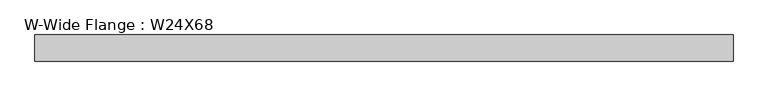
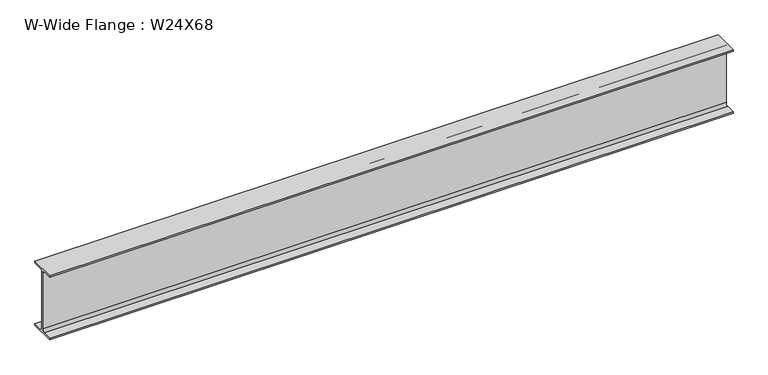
"""IFC4 building model written with IfcOpenShell, lengths in millimetres: beam geometry, W-Wide Flange : W24X68."""

from ifc_helpers import new_model, si_unit, point, frame, frame_2d, origin, place, context, project, spatial, polyline, circle_curve, trimmed, segment, composite_curve, outline, extrude, source, transform, mapped, element, save


def w_wide_flange_w24x68_46376fb1(model_context):
    return source(origin(), model_context, "Body", "SweptSolid", [
        extrude(outline(composite_curve([segment(polyline([(113.919, -286.131), (113.919, -300.99), (-113.919, -300.99), (-113.919, -286.131), (-28.5115, -286.131)]), True, "CONTINUOUS"), segment(trimmed(circle_curve(frame_2d((-28.5115, -262.89)), 23.241), [point((-28.5115, -286.131))], [point((-5.2705, -262.89))], True, "CARTESIAN"), True, "CONTINUOUS"), segment(polyline([(-5.2705, -262.89), (-5.2705, 262.89)]), True, "CONTINUOUS"), segment(trimmed(circle_curve(frame_2d((-28.5115, 262.89)), 23.241), [point((-5.2705, 262.89))], [point((-28.5115, 286.131))], True, "CARTESIAN"), True, "CONTINUOUS"), segment(polyline([(-28.5115, 286.131), (-113.919, 286.131), (-113.919, 300.99), (113.919, 300.99), (113.919, 286.131), (28.5115, 286.131)]), True, "CONTINUOUS"), segment(trimmed(circle_curve(frame_2d((28.5115, 262.89)), 23.241), [point((28.5115, 286.131))], [point((5.2705, 262.89))], True, "CARTESIAN"), True, "CONTINUOUS"), segment(polyline([(5.2705, 262.89), (5.2705, -262.89)]), True, "CONTINUOUS"), segment(trimmed(circle_curve(frame_2d((28.5115, -262.89)), 23.241), [point((5.2705, -262.89))], [point((28.5115, -286.131))], True, "CARTESIAN"), True, "CONTINUOUS"), segment(polyline([(28.5115, -286.131), (113.919, -286.131)]), True, "CONTINUOUS")], self_intersect=False)), frame((-3018.155, 0.0, 0.0), z_axis=(1.0, 0.0, 0.0), x_axis=(0.0, 1.0, 0.0)), (0.0, 0.0, 1.0), 6093.1425),
    ])


if __name__ == "__main__":
    model = new_model("IFC4")
    model_context = context("Model", 3, world=origin())
    ifc_project = project(units=[si_unit("LENGTHUNIT", "METRE", prefix="MILLI")], contexts=[model_context])
    site = spatial("IfcSite", under=ifc_project)
    building = spatial("IfcBuilding", under=site)
    placement = place(None, origin())
    w_wide_flange_w24x68_shape = w_wide_flange_w24x68_46376fb1(model_context)
    element("IfcBeam", 1, ObjectType="W-Wide Flange : W24X68", at=placement, inside=building, context=model_context, shape_type="MappedRepresentation", body=[
        mapped(w_wide_flange_w24x68_shape, transform((0.0, 0.0, 0.0), x_axis=(1.0, 0.0, 0.0), y_axis=(0.0, 1.0, 0.0), z_axis=(0.0, 0.0, 1.0))),
    ])
    save(model, "model.ifc")
